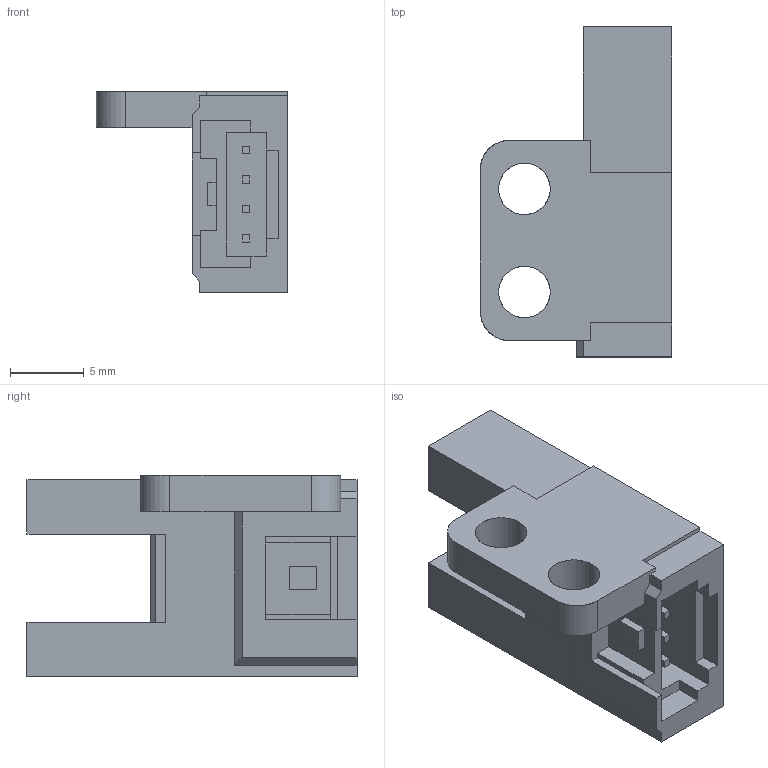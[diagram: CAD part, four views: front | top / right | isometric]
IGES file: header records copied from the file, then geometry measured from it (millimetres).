
Start section: SolidWorks IGES file using analytic representation for surfaces
Global section: file name: C:\catalog\pm-r65w.IGS; native system: SolidWorks 2010; preprocessor: SolidWorks 2010; author: C0278; date: 150807.172847; units: millimetre
Bounding box: 13 x 22.4 x 13.7 mm (x, y, z)
Surface area: 1451.9 mm2 (no closed solid volume)
Topology: 0 solids, 0 shells, 112 faces, 750 edges, 750 vertices
Faces by surface type: bspline 106, revolution 6
